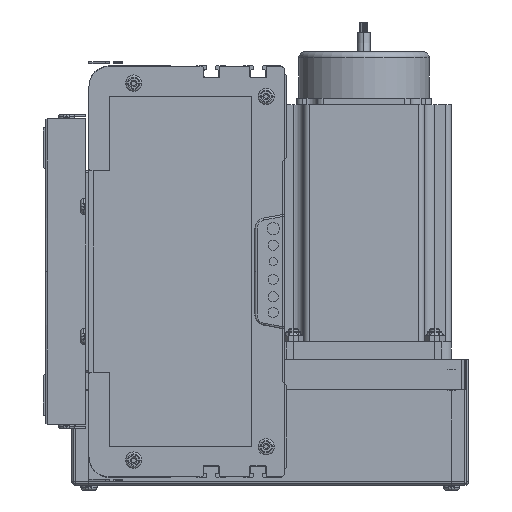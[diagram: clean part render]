
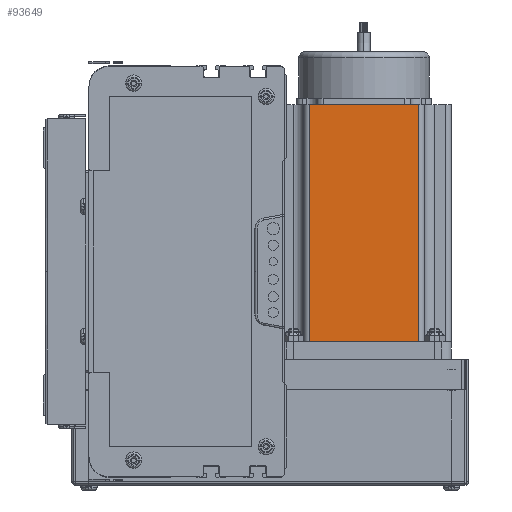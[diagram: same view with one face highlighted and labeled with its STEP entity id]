
A CAD part, left-side view. The second image highlights one B-rep face of the part: STEP entity #93649.
In plain terms, the highlighted planar face has unit normal (-1, 0, 0) as drawn and (0, -1, 0) by its records, which use the part's own axes.
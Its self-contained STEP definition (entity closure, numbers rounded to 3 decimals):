
#93585 = EDGE_LOOP ( 'NONE', ( #93662, #93651, #93696, #93708 ) ) ;
#93630 = VERTEX_POINT ( 'NONE', #114422 ) ;
#93637 = VERTEX_POINT ( 'NONE', #114386 ) ;
#93649 = ADVANCED_FACE ( 'NONE', ( #114540 ), #114388, .F. ) ;
#93651 = ORIENTED_EDGE ( 'NONE', *, *, #93823, .T. ) ;
#93662 = ORIENTED_EDGE ( 'NONE', *, *, #93828, .T. ) ;
#93696 = ORIENTED_EDGE ( 'NONE', *, *, #93834, .F. ) ;
#93700 = EDGE_CURVE ( 'NONE', #93833, #93757, #114578, .T. ) ;
#93708 = ORIENTED_EDGE ( 'NONE', *, *, #93700, .T. ) ;
#93757 = VERTEX_POINT ( 'NONE', #114741 ) ;
#93823 = EDGE_CURVE ( 'NONE', #93630, #93637, #115129, .T. ) ;
#93828 = EDGE_CURVE ( 'NONE', #93757, #93630, #115134, .T. ) ;
#93833 = VERTEX_POINT ( 'NONE', #115142 ) ;
#93834 = EDGE_CURVE ( 'NONE', #93833, #93637, #115114, .T. ) ;
#114386 = CARTESIAN_POINT ( 'NONE',  ( 69.74, 0., 116.5 ) ) ;
#114388 = PLANE ( 'NONE',  #114511 ) ;
#114422 = CARTESIAN_POINT ( 'NONE',  ( 69.74, 0., 0. ) ) ;
#114465 = CARTESIAN_POINT ( 'NONE',  ( 16.16, 0., 116.5 ) ) ;
#114507 = DIRECTION ( 'NONE',  ( 0., 0., 1. ) ) ;
#114509 = DIRECTION ( 'NONE',  ( 0., 1., 0. ) ) ;
#114510 = CARTESIAN_POINT ( 'NONE',  ( 0., 0., 116.5 ) ) ;
#114511 = AXIS2_PLACEMENT_3D ( 'NONE', #114510, #114509, #114507 ) ;
#114540 = FACE_OUTER_BOUND ( 'NONE', #93585, .T. ) ;
#114578 = LINE ( 'NONE', #114465, #114714 ) ;
#114713 = DIRECTION ( 'NONE',  ( 0., 0., -1. ) ) ;
#114714 = VECTOR ( 'NONE', #114713, 1000. ) ;
#114741 = CARTESIAN_POINT ( 'NONE',  ( 16.16, 0., 0. ) ) ;
#115068 = DIRECTION ( 'NONE',  ( 1., 0., 0. ) ) ;
#115070 = VECTOR ( 'NONE', #115068, 1000. ) ;
#115072 = CARTESIAN_POINT ( 'NONE',  ( 0., 0., 116.5 ) ) ;
#115099 = DIRECTION ( 'NONE',  ( 1., 0., 0. ) ) ;
#115101 = VECTOR ( 'NONE', #115099, 1000. ) ;
#115104 = CARTESIAN_POINT ( 'NONE',  ( 0., 0., 0. ) ) ;
#115114 = LINE ( 'NONE', #115072, #115070 ) ;
#115123 = DIRECTION ( 'NONE',  ( 0., 0., 1. ) ) ;
#115125 = VECTOR ( 'NONE', #115123, 1000. ) ;
#115126 = CARTESIAN_POINT ( 'NONE',  ( 69.74, 0., 116.5 ) ) ;
#115129 = LINE ( 'NONE', #115126, #115125 ) ;
#115134 = LINE ( 'NONE', #115104, #115101 ) ;
#115142 = CARTESIAN_POINT ( 'NONE',  ( 16.16, 0., 116.5 ) ) ;
